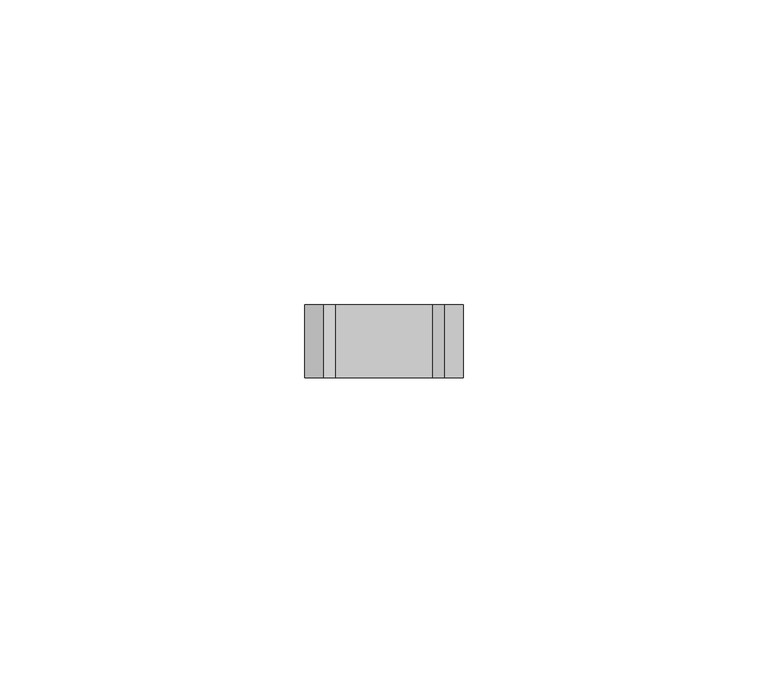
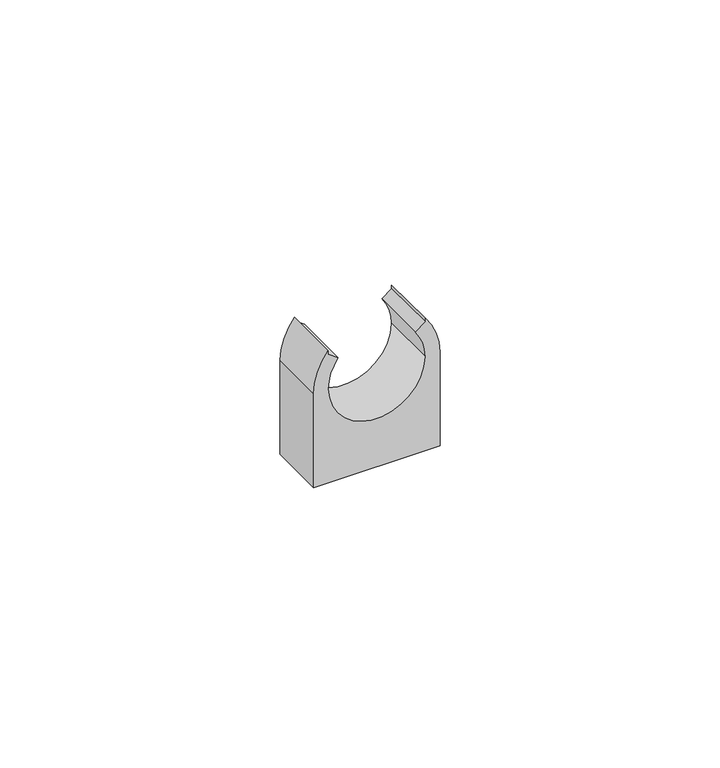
"""IFC4 building model written with IfcOpenShell, lengths in millimetres: cable carrier fitting geometry."""

from ifc_helpers import new_model, si_unit, point, frame, frame_2d, origin, place, context, project, spatial, polyline, circle_curve, trimmed, segment, composite_curve, outline, extrude, source, transform, mapped, element, save


def cable_carrier_fitting_959dfac2(model_context):
    return source(origin(), model_context, "Body", "SweptSolid", [
        extrude(outline(composite_curve([segment(polyline([(0.0, -13.0), (0.0, 13.0), (20.5, 13.0)]), True, "CONTINUOUS"), segment(trimmed(circle_curve(frame_2d((20.5, 0.0)), 13.0), [point((20.5, 13.0))], [point((28.8066239, 10.0))], False, "CARTESIAN"), True, "CONTINUOUS"), segment(polyline([(28.8066239, 10.0), (28.0498344, 10.0), (26.5254238, 7.9808688)]), True, "CONTINUOUS"), segment(trimmed(circle_curve(frame_2d((20.5, 0.0)), 10.0), [point((26.5254238, 7.9808688))], [point((20.5, 10.0))], True, "CARTESIAN"), True, "CONTINUOUS"), segment(trimmed(circle_curve(frame_2d((20.5, 0.0)), 10.0), [point((20.5, 10.0))], [point((20.5, -10.0))], True, "CARTESIAN"), True, "CONTINUOUS"), segment(trimmed(circle_curve(frame_2d((20.5, 0.0)), 10.0), [point((20.5, -10.0))], [point((26.5254238, -7.9808688))], True, "CARTESIAN"), True, "CONTINUOUS"), segment(polyline([(26.5254238, -7.9808688), (28.0498344, -10.0), (28.8066239, -10.0)]), True, "CONTINUOUS"), segment(trimmed(circle_curve(frame_2d((20.5, 0.0)), 13.0), [point((28.8066239, -10.0))], [point((20.5, -13.0))], False, "CARTESIAN"), True, "CONTINUOUS"), segment(polyline([(20.5, -13.0), (0.0, -13.0)]), True, "CONTINUOUS")], self_intersect=False)), frame((0.0, -6.0, 0.0), z_axis=(0.0, 1.0, 0.0), x_axis=(0.0, 0.0, 1.0)), (0.0, 0.0, 1.0), 12.0),
    ])


if __name__ == "__main__":
    model = new_model("IFC4")
    model_context = context("Model", 3, world=origin())
    ifc_project = project(units=[si_unit("LENGTHUNIT", "METRE", prefix="MILLI")], contexts=[model_context])
    site = spatial("IfcSite", under=ifc_project)
    building = spatial("IfcBuilding", under=site)
    placement = place(None, origin())
    cable_carrier_fitting_shape = cable_carrier_fitting_959dfac2(model_context)
    element("IfcCableCarrierFitting", 1, at=placement, inside=building, context=model_context, shape_type="MappedRepresentation", body=[
        mapped(cable_carrier_fitting_shape, transform((0.0, 0.0, 0.0), x_axis=(1.0, 0.0, 0.0), y_axis=(0.0, 1.0, 0.0), z_axis=(0.0, 0.0, 1.0))),
    ])
    save(model, "model.ifc")
